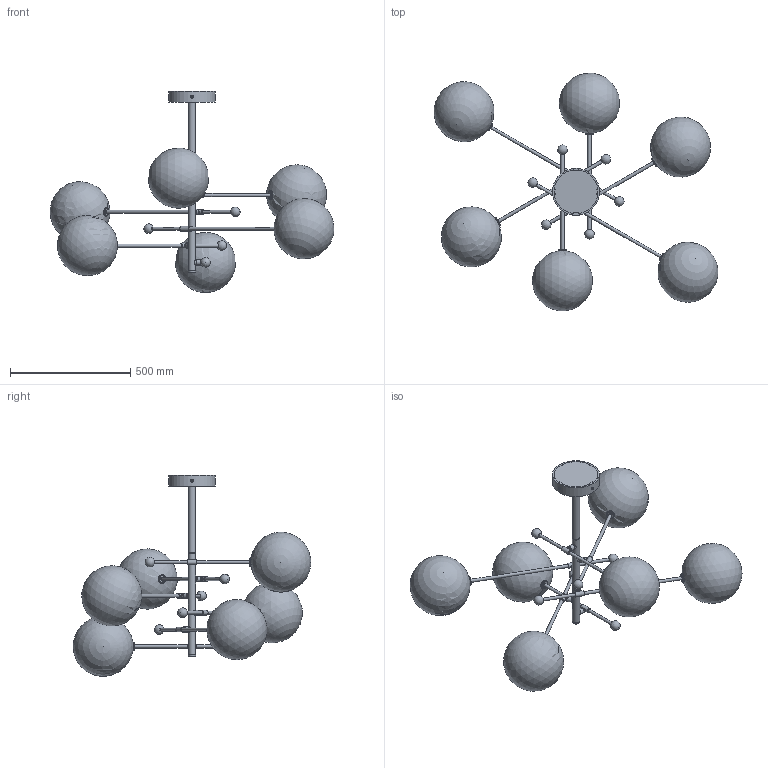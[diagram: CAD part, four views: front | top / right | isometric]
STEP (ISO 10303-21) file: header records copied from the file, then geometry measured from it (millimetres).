
FILE_DESCRIPTION(/* description */ (''),/* implementation_level */ '2;1');
FILE_NAME(/* name */ 'T:\B013 RD 15 6 ARM\Pliki bryłowe handlowe\B013 RD 15 6 Arms 3D files\B013 RD 15 6 Arms.stp',/* time_stamp */ '2022-01-18T08:48:27+01:00',/* author */ ('Mariusz Awariusz'),/* organization */ (''),/* preprocessor_version */ 'ST-DEVELOPER v18.1',/* originating_system */ 'Autodesk Inventor 2022',/* authorisation */ '');
FILE_SCHEMA (('AUTOMOTIVE_DESIGN { 1 0 10303 214 3 1 1 }'));
Length unit declared in the file: millimetre
Products named in the file (1): B013 RD 15 6 Arms_jako część
Bounding box: 1178.35 x 986.46 x 835 mm (x, y, z)
Volume: 4886405.7 mm3; surface area: 2663386.9 mm2
Topology: 1 solids, 13 shells, 430 faces, 891 edges, 577 vertices
Faces by surface type: plane 180, cylinder 131, cone 77, sphere 24, torus 12, bspline 6
Full cylindrical faces by diameter (mm): 3 x24, 10 x6, 11.6 x12, 11.917 x12, 13 x24, 20 x6, 22 x12, 30 x4, 33 x12, 35 x6, 195 x1
Entity records: 12753 total; most frequent: CARTESIAN_POINT 3363, DIRECTION 2112, ORIENTED_EDGE 1710, AXIS2_PLACEMENT_3D 910, EDGE_CURVE 855, EDGE_LOOP 586, VERTEX_POINT 577, CIRCLE 469
